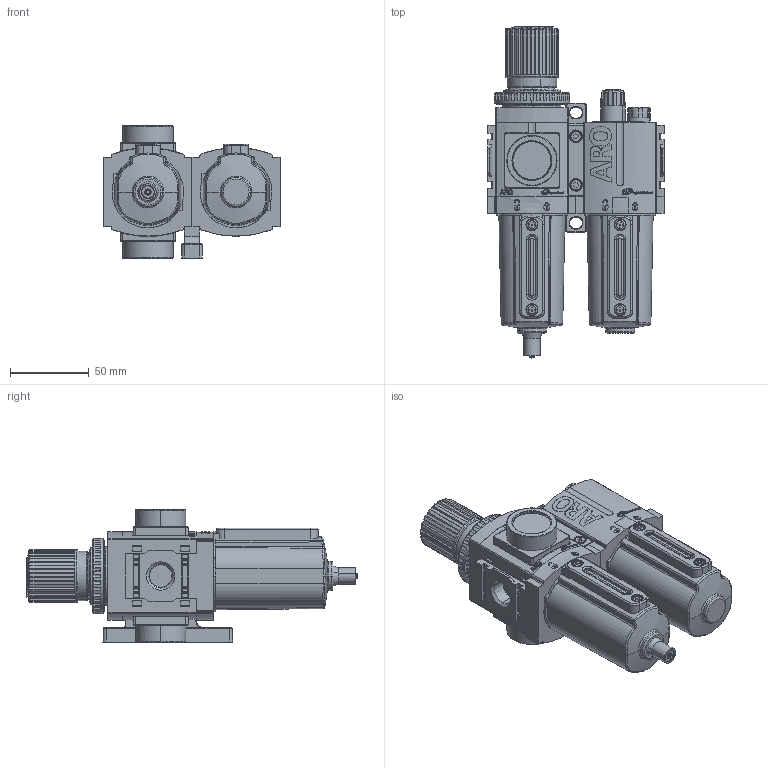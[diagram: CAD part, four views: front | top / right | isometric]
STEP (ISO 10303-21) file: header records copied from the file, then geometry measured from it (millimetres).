
FILE_DESCRIPTION(/* description */ (''),/* implementation_level */ '2;1');
FILE_NAME(/* name */ 'C382X1-61X_01',/* time_stamp */ '2009-02-04T11:03:04-05:00',/* author */ (''),/* organization */ (''),/* preprocessor_version */ 'ST-DEVELOPER v9',/* originating_system */ 'UGS - NX 4.0',/* authorisation */ '');
FILE_SCHEMA (('AUTOMOTIVE_DESIGN { 1 0 10303 214 1 1 1 1 }'));
Length unit declared in the file: inch
Products named in the file (1): szee0781jj5a
Bounding box: 112 x 210.96 x 84.1 mm (x, y, z)
Volume: 656329.3 mm3; surface area: 91612.3 mm2
Topology: 4 solids, 5 shells, 3610 faces, 9205 edges, 5839 vertices
Faces by surface type: plane 1721, cylinder 1008, bspline 255, extrusion 243, torus 194, cone 122, sphere 49, revolution 18
Entity records: 161761 total; most frequent: CARTESIAN_POINT 59830, ORIENTED_EDGE 18364, DIRECTION 11634, EDGE_CURVE 9182, VERTEX_POINT 5843, B_SPLINE_CURVE_WITH_KNOTS 4678, VECTOR 4058, EDGE_LOOP 3881
